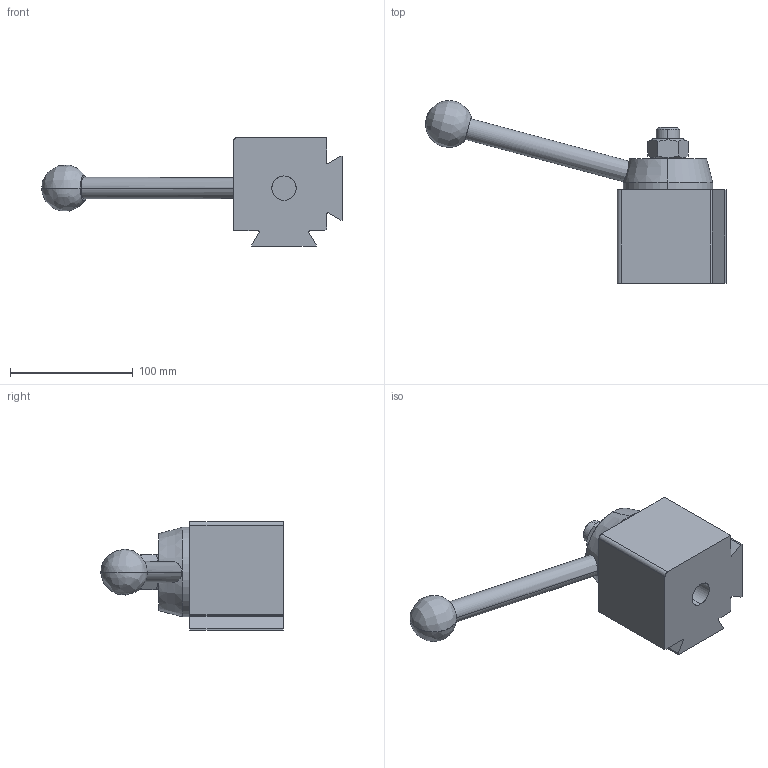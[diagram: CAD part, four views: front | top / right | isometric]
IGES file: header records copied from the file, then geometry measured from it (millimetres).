
Start section: SolidWorks IGES file using analytic representation for surfaces
Global section: file name: R:\Drawings\Files saved as other types\Solid_Models\MODELS FOR PUBLIC\QC TOOL POST.IGS; native system: SolidWorks 2012; preprocessor: SolidWorks 2012; author: RTooley; date: 140321.155245; units: inch
Bounding box: 245.41 x 149.04 x 88.9 mm (x, y, z)
Surface area: 67759.5 mm2 (no closed solid volume)
Topology: 0 solids, 0 shells, 54 faces, 927 edges, 925 vertices
Faces by surface type: bspline 32, revolution 22
